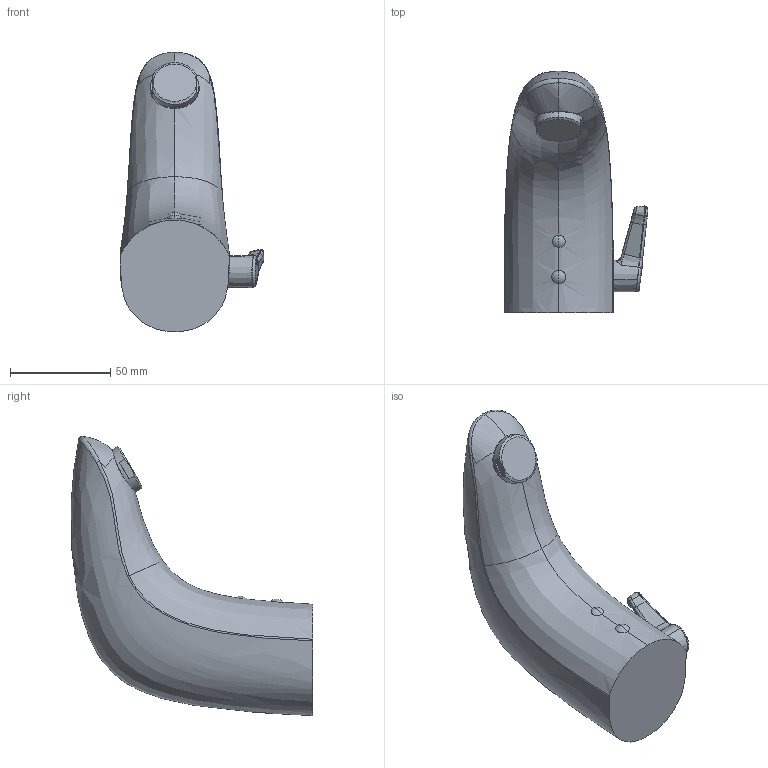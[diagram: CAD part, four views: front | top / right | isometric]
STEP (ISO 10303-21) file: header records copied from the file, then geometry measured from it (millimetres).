
FILE_DESCRIPTION (( 'STEP AP203' ), '1' );
FILE_NAME ('6153FZ(2019)+6123FTZ(2020)+6123FZ(2020).STEP', '2020-01-17T13:12:39', ( '' ), ( '' ), 'SwSTEP 2.0', 'SolidWorks 2016', '' );
FILE_SCHEMA (( 'CONFIG_CONTROL_DESIGN' ));
Length unit declared in the file: millimetre
Products named in the file (1): 6153FZ(2019)+6123FTZ(2020)+6123FZ(2020)
Bounding box: 71.83 x 120.45 x 139.3 mm (x, y, z)
Volume: 340907.8 mm3; surface area: 31951.1 mm2
Topology: 1 solids, 1 shells, 152 faces, 378 edges, 231 vertices
Faces by surface type: bspline 106, cone 20, plane 18, sphere 4, torus 2, cylinder 2
Entity records: 13976 total; most frequent: CARTESIAN_POINT 11247, ORIENTED_EDGE 752, EDGE_CURVE 376, B_SPLINE_CURVE_WITH_KNOTS 268, DIRECTION 240, VERTEX_POINT 231, EDGE_LOOP 157, ADVANCED_FACE 152
